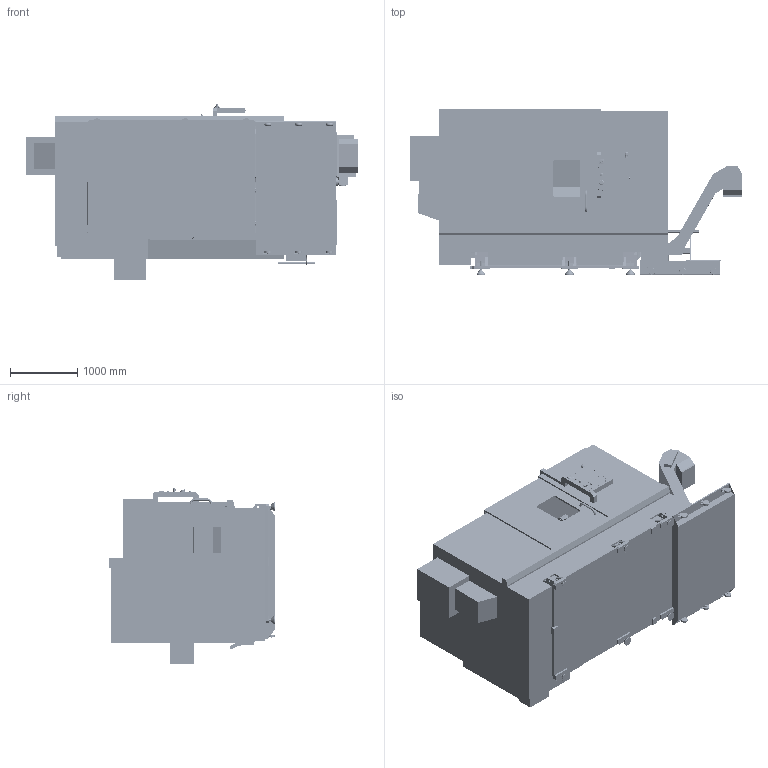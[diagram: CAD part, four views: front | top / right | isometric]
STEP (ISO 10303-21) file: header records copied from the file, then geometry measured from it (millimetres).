
FILE_DESCRIPTION (( 'STEP AP203' ), '1' );
FILE_NAME ('ST-45S_6_2024.STEP', '2024-06-27T14:05:29', ( '' ), ( '' ), 'SwSTEP 2.0', 'SolidWorks 2022', '' );
FILE_SCHEMA (( 'CONFIG_CONTROL_DESIGN' ));
Length unit declared in the file: inch
Products named in the file (16): ST-40S tailstock; bmt175 metric; ST-40S full enclosure; ST-45S_6_2024; BOT metric; BOT INch; ST-40S coolant; bmt 75 inch; ST-40S Non Y Wedge; ST-40S control pendant; bmt75 turret; ST-40S leveling pads; BOT INch-04-0785_CB-Cut-Extrude1; ST-40S conveyor; ST-40S base casting; ST-40S 18 inch  chuck and spindle
Assembly tree (15 placements, depth 2):
  ST-45S_6_2024
    ST-40S full enclosure
    ST-40S base casting
    ST-40S Non Y Wedge
    ST-40S tailstock
    ST-40S coolant
    ST-40S conveyor
    ST-40S 18 inch  chuck and spindle
    ST-40S leveling pads
    ST-40S control pendant
    bmt75 turret
    bmt 75 inch
    bmt175 metric
    BOT metric
    BOT INch
    BOT INch-04-0785_CB-Cut-Extrude1
Bounding box: 4921.44 x 2458.21 x 2599.48 mm (x, y, z)
Volume: 7455593215.7 mm3; surface area: 129266406.6 mm2
Topology: 85 solids, 105 shells, 14895 faces, 37596 edges, 23715 vertices
Faces by surface type: plane 7424, cylinder 3788, cone 1683, bspline 1377, torus 375, sphere 248
Entity records: 523118 total; most frequent: CARTESIAN_POINT 175134, ORIENTED_EDGE 74652, DIRECTION 67574, EDGE_CURVE 37326, VERTEX_POINT 23711, AXIS2_PLACEMENT_3D 23107, LINE 21360, VECTOR 21360
